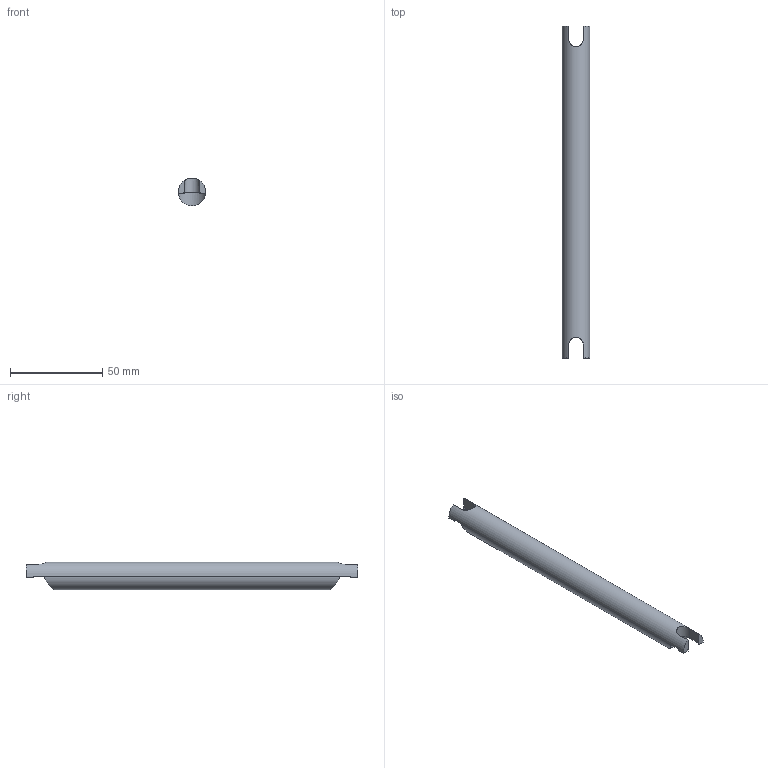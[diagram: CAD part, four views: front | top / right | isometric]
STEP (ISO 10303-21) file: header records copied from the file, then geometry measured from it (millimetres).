
FILE_DESCRIPTION((''),'2;1');
FILE_NAME('SP180171510','2002-12-27T',('Lipro doo'),('Lipro d.o.o.'),'PRO/ENGINEER BY PARAMETRIC TECHNOLOGY CORPORATION, 2001150','PRO/ENGINEER BY PARAMETRIC TECHNOLOGY CORPORATION, 2001150','');
FILE_SCHEMA(('CONFIG_CONTROL_DESIGN'));
Length unit declared in the file: millimetre
Products named in the file (1): SP180171510
Bounding box: 15 x 180 x 14.99 mm (x, y, z)
Volume: 28164.6 mm3; surface area: 8621.3 mm2
Topology: 1 solids, 1 shells, 24 faces, 62 edges, 40 vertices
Faces by surface type: plane 14, cylinder 10
Entity records: 864 total; most frequent: CARTESIAN_POINT 238, ORIENTED_EDGE 124, DIRECTION 118, EDGE_CURVE 62, AXIS2_PLACEMENT_3D 40, VERTEX_POINT 40, VECTOR 38, LINE 38
